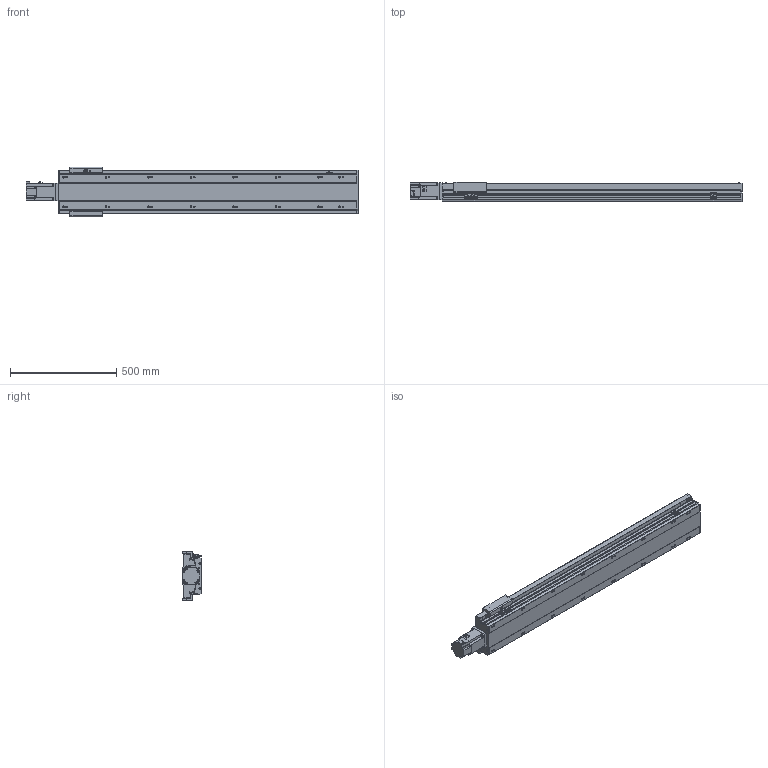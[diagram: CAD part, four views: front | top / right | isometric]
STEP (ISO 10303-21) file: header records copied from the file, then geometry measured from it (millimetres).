
FILE_DESCRIPTION(/* description */ ('STEP AP214'),/* implementation_level */ '2;1');
FILE_NAME(/* name */ 'PSM170-L10-S1150-BC-T75-C1-N(0)',/* time_stamp */ '2022-06-29T08:54:38+02:00',/* author */ ('License CC BY-ND 4.0'),/* organization */ ('CADENAS'),/* preprocessor_version */ 'ST-DEVELOPER v18.102',/* originating_system */ 'PARTsolutions',/* authorisation */ ' ');
FILE_SCHEMA (('AP242_MANAGED_MODEL_BASED_3D_ENGINEERING_MIM_LF { 1 0 10303 442 1 1 4 }','AUTOMOTIVE_DESIGN {1 0 10303 214 3 1 1}'));
Length unit declared in the file: millimetre
Products named in the file (8): PSM170-L10-S1150-BC-T75-C1-N(0); PSM-Sensor; PSM140-S100-342.5; T75-p1; PSM170_body2; PSM170_body3; PSM170-S1150_body1; PSM170-L10-S1150-BC-T75-C1-N(0)_dummy
Assembly tree (11 placements, depth 2):
  PSM170-L10-S1150-BC-T75-C1-N(0)
    PSM-Sensor  x3
    PSM140-S100-342.5  x3
    T75-p1
    PSM170_body2
    PSM170_body3
    PSM170-S1150_body1
    PSM170-L10-S1150-BC-T75-C1-N(0)_dummy
Bounding box: 1561.3 x 92 x 233 mm (x, y, z)
Volume: 9209717.1 mm3; surface area: 1780068 mm2
Topology: 10 solids, 10 shells, 1115 faces, 2986 edges, 1943 vertices
Faces by surface type: plane 676, cylinder 353, cone 72, torus 14
Full cylindrical faces by diameter (mm): 2.8 x3, 3.08 x1, 4.134 x4, 4.5 x12, 4.6 x3, 5.7 x2, 6 x9, 6.647 x24, 7 x8, 7.6 x4, 8 x8, 8.5 x16, 10 x4, 14 x16, 45 x1, 70 x1
Entity records: 29598 total; most frequent: CARTESIAN_POINT 5558, DIRECTION 4900, ORIENTED_EDGE 4716, EDGE_CURVE 2358, AXIS2_PLACEMENT_3D 1673, VERTEX_POINT 1658, LINE 1554, VECTOR 1554
